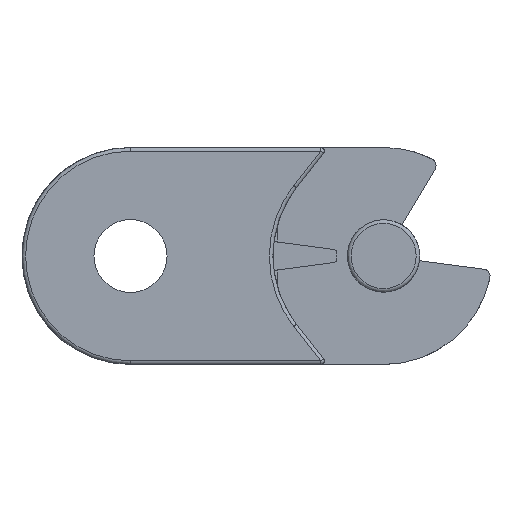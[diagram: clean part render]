
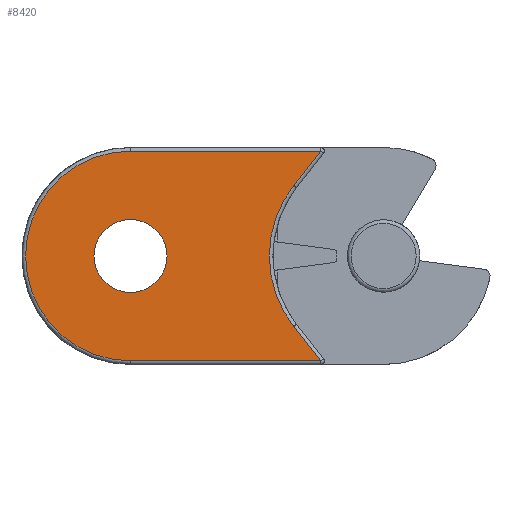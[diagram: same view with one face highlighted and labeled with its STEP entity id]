
A CAD part, left-side view. The second image highlights one B-rep face of the part: STEP entity #8420.
In plain terms, the highlighted planar face has unit normal (-1, 0, 0).
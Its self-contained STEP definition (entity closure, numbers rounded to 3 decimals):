
#4595=CARTESIAN_POINT('',(0.0,12.85,15.));
#4596=VERTEX_POINT('',#4595);
#4597=CARTESIAN_POINT('',(0.0,17.9,15.));
#4598=DIRECTION('',(-1.0,0.0,0.0));
#4599=DIRECTION('',(0.0,1.0,0.0));
#4600=AXIS2_PLACEMENT_3D('',#4597,#4598,#4599);
#4601=CIRCLE('',#4600,5.05);
#4602=EDGE_CURVE('',#4596,#4596,#4601,.T.);
#5041=CARTESIAN_POINT('',(0.,-8.393,0.5));
#5042=VERTEX_POINT('',#5041);
#5066=CARTESIAN_POINT('',(0.,-8.393,29.5));
#5067=VERTEX_POINT('',#5066);
#5092=CARTESIAN_POINT('',(0.,-4.668,5.249));
#5093=VERTEX_POINT('',#5092);
#5101=CARTESIAN_POINT('',(0.,-8.393,0.5));
#5102=DIRECTION('',(0.0,0.617,0.787));
#5103=VECTOR('',#5102,6.035);
#5104=LINE('',#5101,#5103);
#5105=EDGE_CURVE('',#5042,#5093,#5104,.T.);
#5139=CARTESIAN_POINT('',(0.,-4.668,24.751));
#5140=VERTEX_POINT('',#5139);
#5148=CARTESIAN_POINT('',(0.,-17.1,15.));
#5149=DIRECTION('',(1.0,0.0,0.0));
#5150=DIRECTION('',(0.0,1.,0.));
#5151=AXIS2_PLACEMENT_3D('',#5148,#5149,#5150);
#5152=CIRCLE('',#5151,15.8);
#5153=EDGE_CURVE('',#5093,#5140,#5152,.T.);
#5166=CARTESIAN_POINT('',(0.,-4.668,24.751));
#5167=DIRECTION('',(0.0,-0.617,0.787));
#5168=VECTOR('',#5167,6.035);
#5169=LINE('',#5166,#5168);
#5170=EDGE_CURVE('',#5140,#5067,#5169,.T.);
#5188=CARTESIAN_POINT('',(0.0,17.9,0.5));
#5189=VERTEX_POINT('',#5188);
#5206=CARTESIAN_POINT('',(0.0,17.9,0.5));
#5207=DIRECTION('',(0.0,-1.0,0.0));
#5208=VECTOR('',#5207,26.293);
#5209=LINE('',#5206,#5208);
#5210=EDGE_CURVE('',#5189,#5042,#5209,.T.);
#5220=CARTESIAN_POINT('',(0.0,17.9,29.5));
#5221=VERTEX_POINT('',#5220);
#5222=CARTESIAN_POINT('',(0.0,17.9,15.));
#5223=DIRECTION('',(-1.0,0.0,0.0));
#5224=DIRECTION('',(0.0,1.0,0.0));
#5225=AXIS2_PLACEMENT_3D('',#5222,#5223,#5224);
#5226=CIRCLE('',#5225,14.5);
#5227=EDGE_CURVE('',#5221,#5189,#5226,.T.);
#5262=CARTESIAN_POINT('',(0.,-8.393,29.5));
#5263=DIRECTION('',(0.0,1.0,0.0));
#5264=VECTOR('',#5263,26.293);
#5265=LINE('',#5262,#5264);
#5266=EDGE_CURVE('',#5067,#5221,#5265,.T.);
#8404=CARTESIAN_POINT('',(0.0,12.004,15.));
#8405=DIRECTION('',(-1.0,0.0,0.0));
#8406=DIRECTION('',(0.0,1.0,0.0));
#8407=AXIS2_PLACEMENT_3D('',#8404,#8405,#8406);
#8408=PLANE('',#8407);
#8409=ORIENTED_EDGE('',*,*,#5266,.T.);
#8410=ORIENTED_EDGE('',*,*,#5227,.T.);
#8411=ORIENTED_EDGE('',*,*,#5210,.T.);
#8412=ORIENTED_EDGE('',*,*,#5105,.T.);
#8413=ORIENTED_EDGE('',*,*,#5153,.T.);
#8414=ORIENTED_EDGE('',*,*,#5170,.T.);
#8415=EDGE_LOOP('',(#8409,#8410,#8411,#8412,#8413,#8414));
#8416=FACE_OUTER_BOUND('',#8415,.T.);
#8417=ORIENTED_EDGE('',*,*,#4602,.F.);
#8418=EDGE_LOOP('',(#8417));
#8419=FACE_BOUND('',#8418,.T.);
#8420=ADVANCED_FACE('',(#8416,#8419),#8408,.T.);
